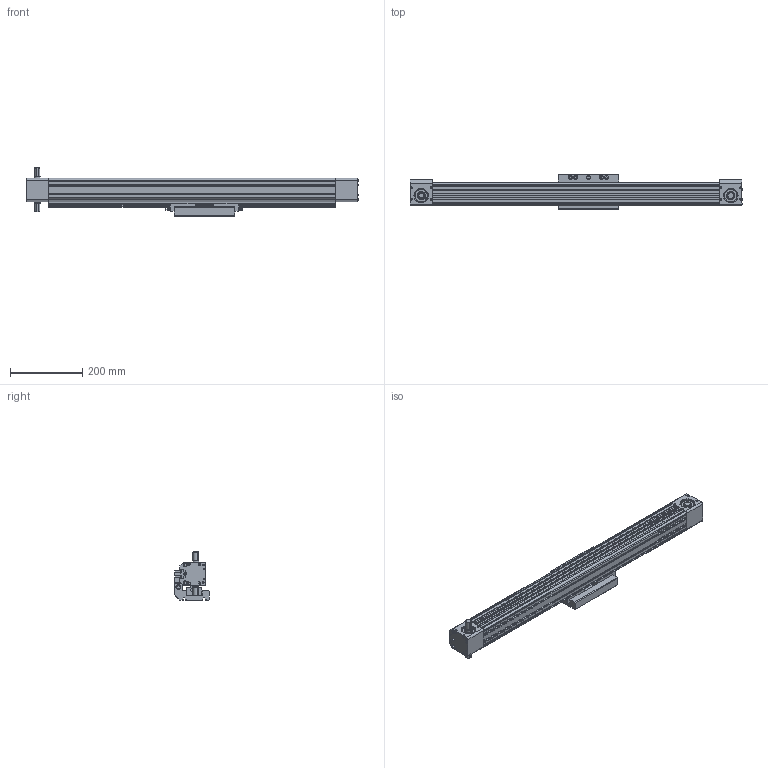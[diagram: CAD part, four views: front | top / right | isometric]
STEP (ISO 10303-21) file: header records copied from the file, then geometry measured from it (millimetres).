
FILE_DESCRIPTION((''),'2;1');
FILE_NAME('TCDH65-S550','2018-02-03T',('lenovo'),(''),'PRO/ENGINEER BY PARAMETRIC TECHNOLOGY CORPORATION, 2010280','PRO/ENGINEER BY PARAMETRIC TECHNOLOGY CORPORATION, 2010280','');
FILE_SCHEMA(('CONFIG_CONTROL_DESIGN'));
Products named in the file (1): TCDH65-S550
Bounding box: 916 x 96.5 x 132.5 mm (x, y, z)
Surface area: 775764.6 mm2 (no closed solid volume)
Topology: 0 solids, 55 shells, 2211 faces, 5895 edges, 3882 vertices
Faces by surface type: plane 1117, cylinder 810, cone 232, torus 52
Entity records: 70191 total; most frequent: CARTESIAN_POINT 13264, DIRECTION 12237, ORIENTED_EDGE 11646, EDGE_CURVE 5895, AXIS2_PLACEMENT_3D 4351, VERTEX_POINT 3882, VECTOR 3535, LINE 3535
